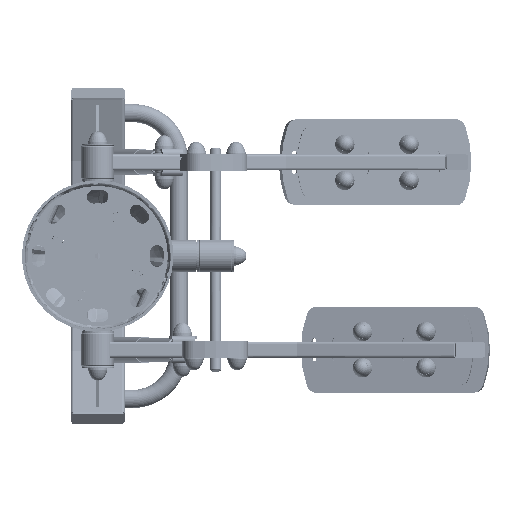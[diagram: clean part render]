
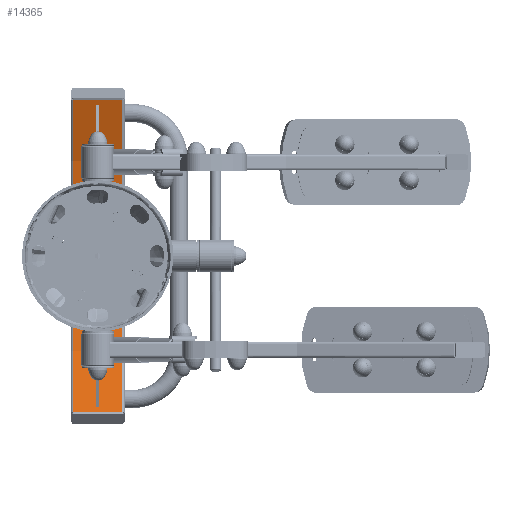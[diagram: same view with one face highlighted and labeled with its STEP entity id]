
A CAD part, front view. The second image highlights one B-rep face of the part: STEP entity #14365.
In plain terms, the highlighted cylindrical face has radius 725 mm (diameter 1450 mm), a partial arc.
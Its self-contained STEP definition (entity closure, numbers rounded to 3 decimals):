
#1277 = AXIS2_PLACEMENT_3D ( 'NONE', #16656, #27356, #133271 ) ;
#2536 = CARTESIAN_POINT ( 'NONE',  ( -289.093, 664.869, -50. ) ) ;
#8908 = EDGE_CURVE ( 'NONE', #91705, #52656, #21916, .T. ) ;
#9500 = CARTESIAN_POINT ( 'NONE',  ( 0., 0., 45. ) ) ;
#14365 = ADVANCED_FACE ( 'NONE', ( #60169 ), #31942, .F. ) ;
#16656 = CARTESIAN_POINT ( 'NONE',  ( 0., 0., -216.752 ) ) ;
#18803 = LINE ( 'NONE', #2536, #43724 ) ;
#20090 = DIRECTION ( 'NONE',  ( -1., 0., 0. ) ) ;
#21916 = CIRCLE ( 'NONE', #96731, 725. ) ;
#27356 = DIRECTION ( 'NONE',  ( 0., 0., -1. ) ) ;
#28565 = VERTEX_POINT ( 'NONE', #131758 ) ;
#31942 = CYLINDRICAL_SURFACE ( 'NONE', #1277, 725. ) ;
#34478 = DIRECTION ( 'NONE',  ( 0., 0., 1. ) ) ;
#42908 = VERTEX_POINT ( 'NONE', #87049 ) ;
#43489 = ORIENTED_EDGE ( 'NONE', *, *, #128646, .F. ) ;
#43724 = VECTOR ( 'NONE', #34478, 1000. ) ;
#51510 = EDGE_CURVE ( 'NONE', #28565, #42908, #125536, .T. ) ;
#52656 = VERTEX_POINT ( 'NONE', #83363 ) ;
#55559 = CARTESIAN_POINT ( 'NONE',  ( 0., 0., -45. ) ) ;
#57465 = LINE ( 'NONE', #98805, #113702 ) ;
#60169 = FACE_OUTER_BOUND ( 'NONE', #76240, .T. ) ;
#61722 = AXIS2_PLACEMENT_3D ( 'NONE', #9500, #83574, #20090 ) ;
#66199 = DIRECTION ( 'NONE',  ( -1., 0., 0. ) ) ;
#72251 = ORIENTED_EDGE ( 'NONE', *, *, #8908, .T. ) ;
#76240 = EDGE_LOOP ( 'NONE', ( #72251, #100806, #81020, #43489 ) ) ;
#77507 = DIRECTION ( 'NONE',  ( 0., 0., 1. ) ) ;
#81020 = ORIENTED_EDGE ( 'NONE', *, *, #51510, .F. ) ;
#83363 = CARTESIAN_POINT ( 'NONE',  ( 289.093, 664.869, -45. ) ) ;
#83574 = DIRECTION ( 'NONE',  ( 0., 0., -1. ) ) ;
#87049 = CARTESIAN_POINT ( 'NONE',  ( 289.093, 664.869, 45. ) ) ;
#91705 = VERTEX_POINT ( 'NONE', #92947 ) ;
#92947 = CARTESIAN_POINT ( 'NONE',  ( -289.093, 664.869, -45. ) ) ;
#96731 = AXIS2_PLACEMENT_3D ( 'NONE', #55559, #129502, #66199 ) ;
#98805 = CARTESIAN_POINT ( 'NONE',  ( 289.093, 664.869, -50. ) ) ;
#100806 = ORIENTED_EDGE ( 'NONE', *, *, #102988, .T. ) ;
#102988 = EDGE_CURVE ( 'NONE', #52656, #42908, #57465, .T. ) ;
#113702 = VECTOR ( 'NONE', #77507, 1000. ) ;
#125536 = CIRCLE ( 'NONE', #61722, 725. ) ;
#128646 = EDGE_CURVE ( 'NONE', #91705, #28565, #18803, .T. ) ;
#129502 = DIRECTION ( 'NONE',  ( 0., 0., -1. ) ) ;
#131758 = CARTESIAN_POINT ( 'NONE',  ( -289.093, 664.869, 45. ) ) ;
#133271 = DIRECTION ( 'NONE',  ( -1., 0., 0. ) ) ;
